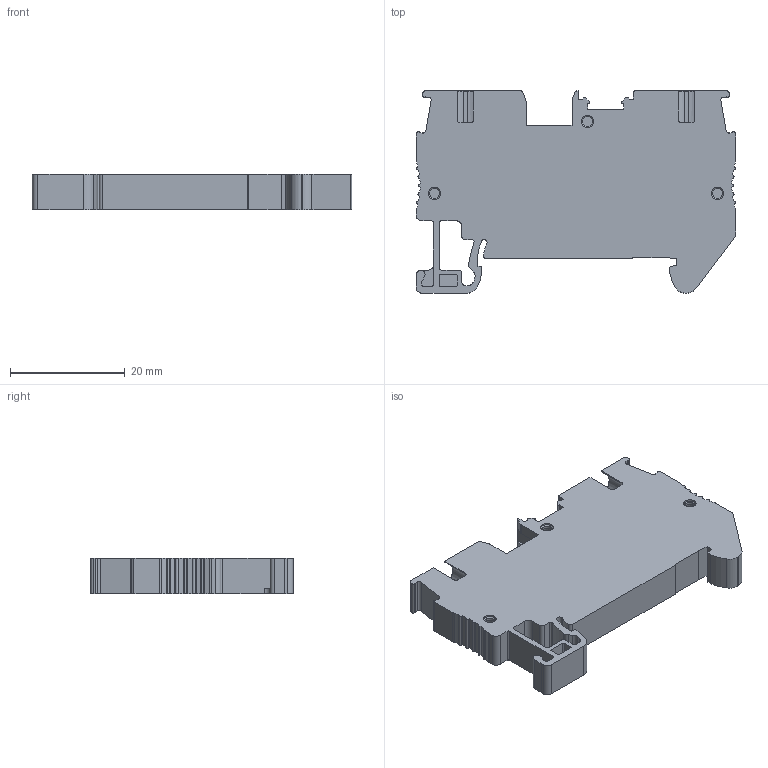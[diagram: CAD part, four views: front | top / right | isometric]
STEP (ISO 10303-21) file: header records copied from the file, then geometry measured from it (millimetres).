
FILE_DESCRIPTION((''),'2;1');
FILE_NAME('UPT-40ASSY','2024-03-29T15:34:52',('Administrator'),(''),'CREO PARAMETRIC BY PTC INC, 2018050','CREO PARAMETRIC BY PTC INC, 2018050','');
FILE_SCHEMA(('CONFIG_CONTROL_DESIGN'));
Length unit declared in the file: millimetre
Products named in the file (1): UPT-40ASSY
Bounding box: 55.8 x 35.3 x 6.2 mm (x, y, z)
Volume: 8287.4 mm3; surface area: 6656.6 mm2
Topology: 1 solids, 3 shells, 627 faces, 1855 edges, 1231 vertices
Faces by surface type: plane 359, cylinder 217, cone 28, torus 14, bspline 8, extrusion 1
Entity records: 22203 total; most frequent: CARTESIAN_POINT 5222, ORIENTED_EDGE 3702, DIRECTION 3436, EDGE_CURVE 1851, VERTEX_POINT 1231, VECTOR 1230, LINE 1229, AXIS2_PLACEMENT_3D 1103
